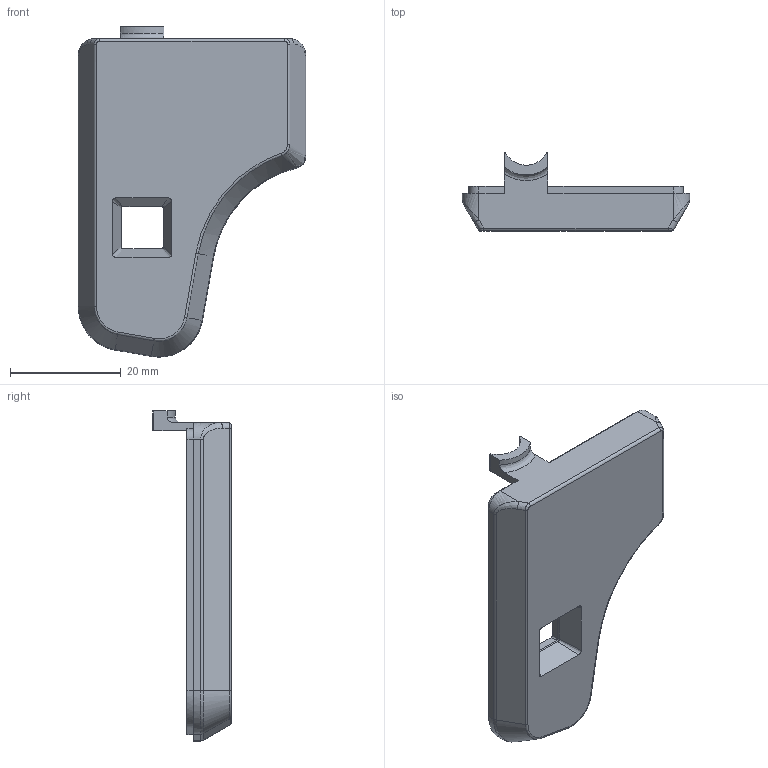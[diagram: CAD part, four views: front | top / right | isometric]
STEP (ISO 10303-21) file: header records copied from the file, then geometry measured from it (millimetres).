
FILE_DESCRIPTION((''),'2;1');
FILE_NAME('c:\ideas_models\BEUIS_BASE_280726_03.stp', '2026-07-29T15:25:21',('User'),('SDRC'),'I-DEAS Master Series 9','UNIX', 'Yes');
FILE_SCHEMA(('AUTOMOTIVE_DESIGN { 1 0 10303 214 0 1 1 1 }'));
Length unit declared in the file: millimetre
Products named in the file (1): BEUIS_BASE_280726_03
Bounding box: 41 x 14.09 x 59.53 mm (x, y, z)
Volume: 4331.9 mm3; surface area: 5884.6 mm2
Topology: 1 solids, 1 shells, 196 faces, 488 edges, 309 vertices
Faces by surface type: bspline 196
Entity records: 6854 total; most frequent: CARTESIAN_POINT 4031, ORIENTED_EDGE 956, EDGE_CURVE 478, B_SPLINE_CURVE_WITH_KNOTS 320, VERTEX_POINT 288, EDGE_LOOP 202, FACE_OUTER_BOUND 196, ADVANCED_FACE 196
